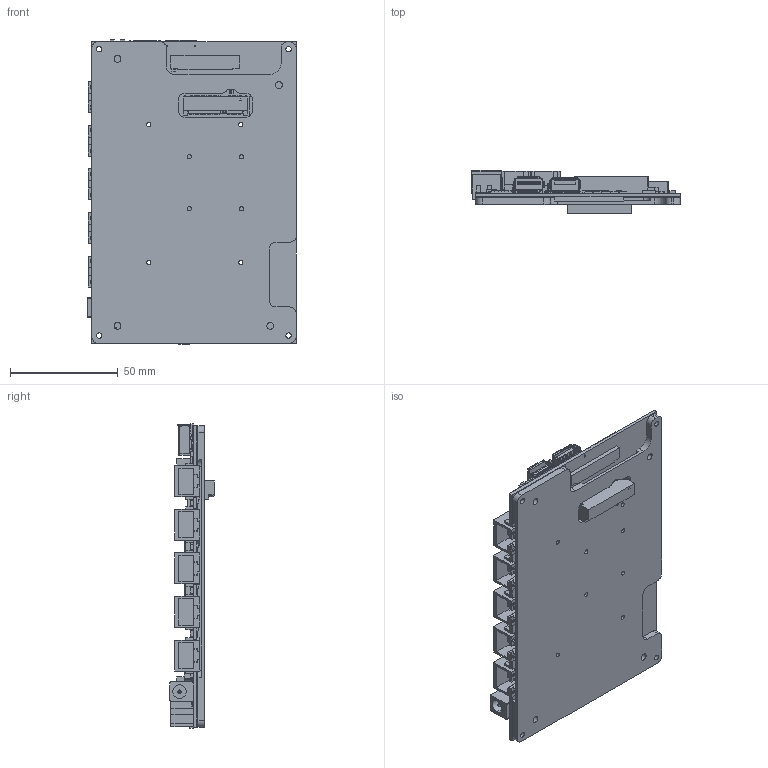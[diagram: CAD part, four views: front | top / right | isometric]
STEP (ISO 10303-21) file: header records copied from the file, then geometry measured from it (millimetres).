
FILE_DESCRIPTION (( 'STEP AP214' ), '1' );
FILE_NAME ('8DEV6001_0004-2019-08-05.STEP', '2019-09-03T08:21:04', ( '' ), ( '' ), 'SwSTEP 2.0', 'SolidWorks 2018', '' );
FILE_SCHEMA (( 'AUTOMOTIVE_DESIGN' ));
Length unit declared in the file: millimetre
Products named in the file (1): 8DEV6001_0004-2019-08-05
Bounding box: 96.83 x 20.6 x 141.4 mm (x, y, z)
Volume: 73860.4 mm3; surface area: 90151.3 mm2
Topology: 944 solids, 944 shells, 9412 faces, 21958 edges, 14541 vertices
Faces by surface type: plane 7836, cylinder 1419, sphere 68, cone 55, torus 18, bspline 16
Entity records: 377152 total; most frequent: CARTESIAN_POINT 46376, DIRECTION 43705, ORIENTED_EDGE 43644, EDGE_CURVE 21822, LINE 18597, VECTOR 18597, VERTEX_POINT 14473, AXIS2_PLACEMENT_3D 12554
